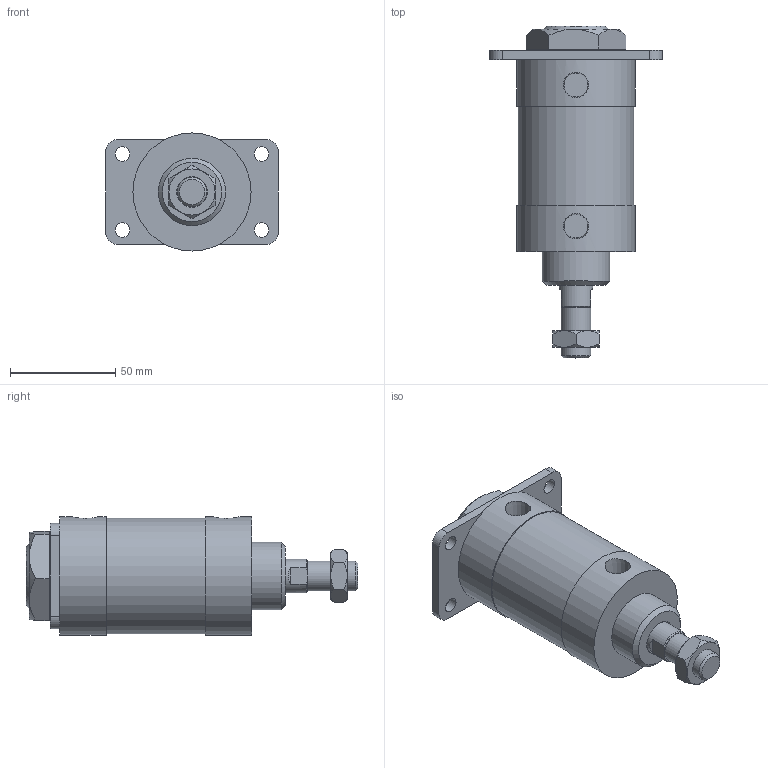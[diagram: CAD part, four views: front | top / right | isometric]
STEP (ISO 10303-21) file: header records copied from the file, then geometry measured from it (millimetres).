
FILE_DESCRIPTION(/* description */ ('Unknown'),/* implementation_level */ '2;1');
FILE_NAME(/* name */ 'WK50-FB',/* time_stamp */ '2026-07-17T16:35:29+08:00',/* author */ ('Unknown'),/* organization */ ('Unknown'),/* preprocessor_version */ 'ST-DEVELOPER v16.7',/* originating_system */ 'DEX',/* authorisation */ $);
FILE_SCHEMA (('CONFIG_CONTROL_DESIGN'));
Length unit declared in the file: millimetre
Products named in the file (8): WK50-FB; WK50_玡嶈搵; WK50_後; WK50_鋁0.0.107 Type86; WK50_¤ß¶b¬¡æ´»å¡žçµ„; M14-1.5P-8_螺; WK40_WK50_FA; M32-2.0P-10_螺
Assembly tree (7 placements, depth 2):
  WK50-FB
    WK50_玡嶈搵
    WK50_後
    WK50_鋁0.0.107 Type86
    WK50_¤ß¶b¬¡æ´»å¡žçµ„
    M14-1.5P-8_螺
    WK40_WK50_FA
    M32-2.0P-10_螺
Bounding box: 82 x 157.5 x 56 mm (x, y, z)
Volume: 276372.5 mm3; surface area: 68526.2 mm2
Topology: 7 solids, 7 shells, 95 faces, 206 edges, 132 vertices
Faces by surface type: plane 49, cylinder 24, cone 22
Full cylindrical faces by diameter (mm): 7 x4, 12.5 x1, 14 x1, 16 x2, 30 x1, 32 x3, 41 x1, 49.5 x1, 50 x1, 52 x2, 55 x1, 56 x2
Entity records: 3167 total; most frequent: CARTESIAN_POINT 565, DIRECTION 414, ORIENTED_EDGE 318, AXIS2_PLACEMENT_3D 182, EDGE_CURVE 159, EDGE_LOOP 154, FACE_BOUND 154, VERTEX_POINT 119
